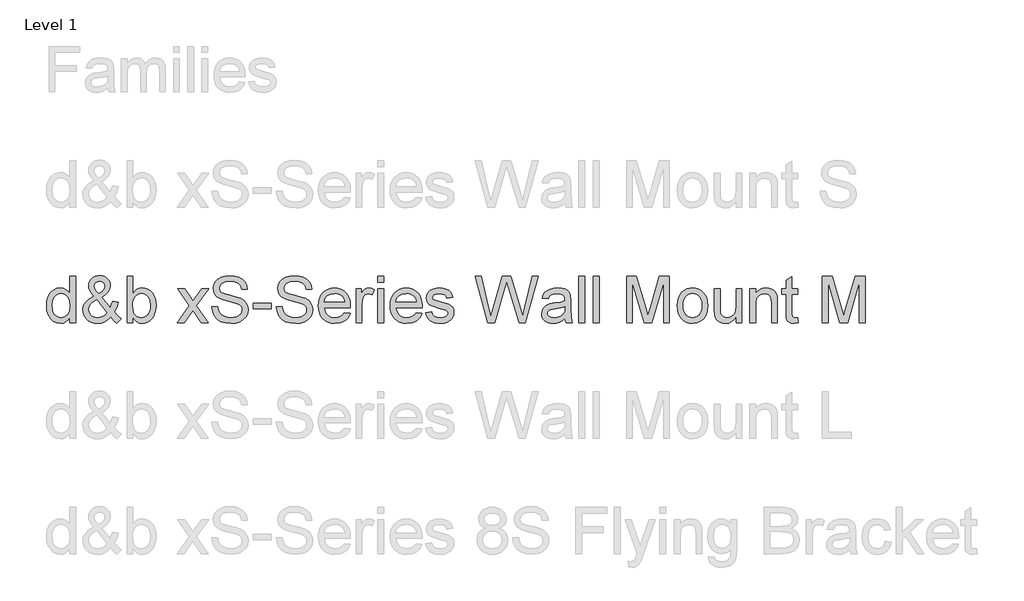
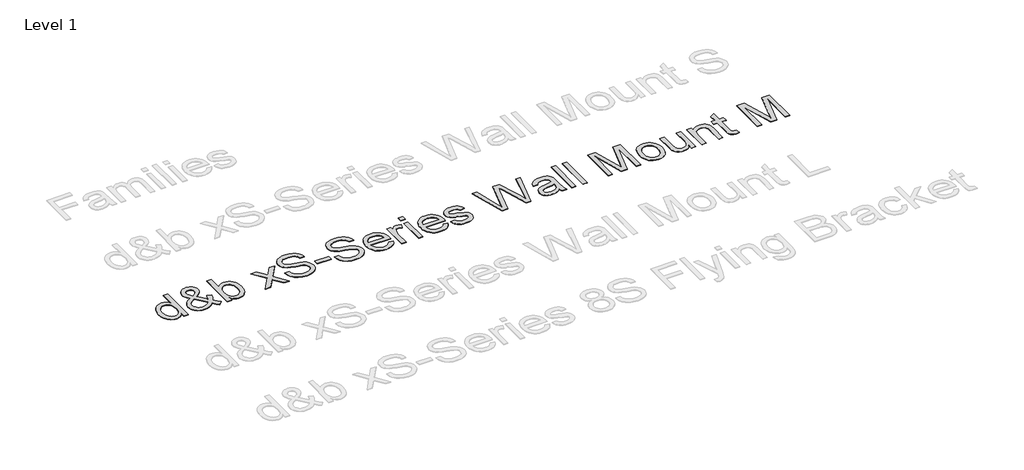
# One storey, part 41 of 55: 1 proxy.
"""IFC4 building model written with IfcOpenShell, lengths in millimetres."""

from ifc_helpers import new_model, si_unit, origin, origin_with_axes, place, context, project, spatial, polyline, outline, extrude, element, save

model = new_model("IFC4")

# Units and contexts
model_context = context("Model", 3, world=origin())
ifc_project = project(units=[si_unit("LENGTHUNIT", "METRE", prefix="MILLI")], contexts=[model_context])

# Site, building, storey
site = spatial("IfcSite", under=ifc_project)
building = spatial("IfcBuilding", under=site)
storey = spatial("IfcBuildingStorey", under=building, Name="Level 1", Elevation=0.0)

# Proxy
placement = place(None, origin())
element("IfcBuildingElementProxy", 1, Name="400mm Arial", ObjectType="400mm Arial", at=placement, inside=storey, context=model_context, shape_type="SweptSolid", body=[
    extrude(outline(polyline([(-20879.8211974, 4351.3054836), (-20879.8211974, 4398.6886846), (-20894.8491769, 4375.2116819), (-20913.0532043, 4358.4423943), (-20934.4332796, 4348.3808217), (-20958.9894028, 4345.0269642), (-20991.4611202, 4349.8830065), (-21021.1859854, 4364.4511335), (-21046.3491139, 4387.7135384), (-21065.1356211, 4418.6524142), (-21076.8342686, 4456.0169621), (-21080.7338177, 4498.5563835), (-21077.1408369, 4540.5685074), (-21066.3618944, 4578.5094038), (-21048.4092531, 4610.2208318), (-21023.2951755, 4633.5445503), (-20992.9203855, 4647.8919481), (-20959.1856065, 4652.674414), (-20934.6110892, 4649.2531115), (-20912.8815261, 4638.9892038), (-20894.4629008, 4623.2561171), (-20879.8211974, 4603.4272776), (-20879.8211974, 4753.1307242), (-20829.5930424, 4753.1307242), (-20829.5930424, 4351.3054836), (-20879.8211974, 4351.3054836)]), holes=[polyline([(-21030.5056627, 4498.7525872), (-21029.089317, 4474.3957335), (-21024.8402799, 4453.3191608), (-21017.7585515, 4435.5228693), (-21007.8441318, 4421.0068589), (-20983.1469871, 4401.6930542), (-20969.2717046, 4396.864603), (-20954.3786151, 4395.2551193), (-20939.415015, 4396.7910266), (-20925.6225058, 4401.3987486), (-20901.5507606, 4419.8296365), (-20892.0440767, 4433.7386416), (-20885.2535882, 4450.8911397), (-20879.8211974, 4494.9266145), (-20885.3516901, 4543.0701049), (-20892.2648059, 4561.6052261), (-20901.9431681, 4576.4492646), (-20913.6448812, 4587.8229496), (-20926.6280499, 4595.9470104), (-20940.8926743, 4600.8214468), (-20956.4387543, 4602.4462589), (-20971.6261493, 4600.8858262), (-20985.5014319, 4596.2045278), (-20998.064602, 4588.4023638), (-21009.3156597, 4577.4793342), (-21018.586286, 4563.1963157), (-21025.2081619, 4545.3141851), (-21030.5056627, 4498.7525872)])]), origin_with_axes(), (0.0, 0.0, 1.0), 5.0),
    extrude(outline(polyline([(-20523.809528, 4400.9450275), (-20549.3405384, 4376.4808748), (-20577.0788409, 4359.00648), (-20607.0734862, 4348.5218431), (-20639.3735254, 4345.0269642), (-20668.6814577, 4347.6144009), (-20694.8010793, 4355.376711), (-20717.7323904, 4368.3138945), (-20737.4753908, 4386.4259514), (-20750.308341, 4403.7961129), (-20759.4747341, 4422.1595558), (-20764.9745699, 4441.5162802), (-20766.8078485, 4461.8662859), (-20760.9094739, 4497.0603301), (-20743.2143499, 4528.6736562), (-20713.796053, 4556.6817387), (-20672.7281596, 4581.0600523), (-20694.6416638, 4609.4114914), (-20707.7995765, 4631.8768186), (-20714.3846642, 4651.0557332), (-20716.5796934, 4669.5479349), (-20714.8506481, 4687.1020374), (-20709.6635119, 4703.4666548), (-20701.018285, 4718.6417871), (-20688.9149674, 4732.6274343), (-20674.1935562, 4744.3444759), (-20657.6940487, 4752.7137912), (-20639.4164449, 4757.7353805), (-20619.3607448, 4759.4092436), (-20600.212487, 4757.8089569), (-20582.8913764, 4753.0080968), (-20567.397413, 4745.0066634), (-20553.7305969, 4733.8046567), (-20542.5715097, 4720.3585698), (-20534.6007332, 4705.6248959), (-20529.8182672, 4689.603635), (-20528.2241119, 4672.2947871), (-20532.9452642, 4644.31123), (-20547.108721, 4618.436863), (-20570.7144823, 4594.6716861), (-20603.7625482, 4573.0156993), (-20531.069066, 4482.4676776), (-20518.6837055, 4508.3420446), (-20509.3885538, 4538.0914353), (-20459.1603987, 4527.2021282), (-20474.6114425, 4480.6773185), (-20494.6732739, 4444.5022557), (-20466.1256311, 4411.1966724), (-20434.0463211, 4383.6790991), (-20471.7174374, 4345.0269642), (-20497.3465498, 4368.47331), (-20523.809528, 4400.9450275)]), holes=[polyline([(-20557.4584678, 4437.1446158), (-20647.1235727, 4549.0788442), (-20681.3733865, 4527.2266537), (-20702.305872, 4506.9931439), (-20713.0112381, 4487.6670765), (-20716.5796934, 4468.5372127), (-20711.6991256, 4444.8456122), (-20697.0574222, 4420.2710949), (-20686.2784798, 4409.3266056), (-20673.4639236, 4401.5091132), (-20658.6137537, 4396.8186177), (-20641.7279702, 4395.2551193), (-20619.0051256, 4398.1736498), (-20595.5710425, 4406.9292412), (-20574.1480476, 4420.3201459), (-20557.4584678, 4437.1446158)]), polyline([(-20629.1709314, 4604.7026019), (-20602.9041569, 4621.3676562), (-20587.8700461, 4635.8499441), (-20580.8067117, 4649.9398245), (-20578.452267, 4665.4276565), (-20581.5547385, 4682.9756277), (-20590.862153, 4696.9674062), (-20604.829406, 4706.1276679), (-20621.9113933, 4709.1810885), (-20639.3612626, 4706.1521934), (-20653.6473468, 4697.0655081), (-20663.1754905, 4683.6132898), (-20666.3515384, 4667.4877957), (-20662.0350563, 4649.0936959), (-20648.9875082, 4628.639457), (-20629.1709314, 4604.7026019)])]), origin_with_axes(), (0.0, 0.0, 1.0), 5.0),
    extrude(outline(polyline([(-20333.590011, 4351.3054836), (-20383.8181661, 4351.3054836), (-20383.8181661, 4753.1307242), (-20333.590011, 4753.1307242), (-20333.590011, 4604.1139907), (-20317.0721094, 4625.3591759), (-20298.4204923, 4640.5343082), (-20277.6351595, 4649.6393876), (-20254.7161112, 4652.674414), (-20228.8417442, 4649.9398245), (-20204.3898543, 4641.736056), (-20182.758393, 4628.5781433), (-20165.3453119, 4610.9811212), (-20151.6968898, 4589.116668), (-20141.3594058, 4563.1564619), (-20134.8478945, 4534.1796234), (-20132.6773907, 4503.265273), (-20134.9245365, 4467.5929822), (-20141.6659741, 4436.2126481), (-20152.9017034, 4409.1242705), (-20168.6317244, 4386.3278495), (-20187.5132678, 4368.2587122), (-20208.2035643, 4355.3521855), (-20230.702614, 4347.6082695), (-20255.0104168, 4345.0269642), (-20278.6836232, 4348.3562962), (-20299.671291, 4358.3442924), (-20317.9734203, 4374.9909527), (-20333.590011, 4398.2962771), (-20333.590011, 4351.3054836)]), holes=[polyline([(-20333.590011, 4500.9108283), (-20330.1564457, 4459.0213318), (-20319.8557498, 4430.6698927), (-20307.6849872, 4415.1759293), (-20293.5399244, 4404.1088126), (-20277.4205617, 4397.4685426), (-20259.3268989, 4395.2551193), (-20244.3050508, 4396.8860628), (-20230.3377977, 4401.7788933), (-20217.4251396, 4409.9336109), (-20205.5670767, 4421.3502155), (-20195.6526569, 4435.9980502), (-20188.5709285, 4453.8464584), (-20184.3218914, 4474.8954399), (-20182.9055458, 4499.1449947), (-20188.3379366, 4545.1057186), (-20195.1284251, 4562.8989445), (-20204.6351089, 4577.2340795), (-20216.0670419, 4588.264408), (-20228.6332778, 4596.1432141), (-20242.3338164, 4600.8704977), (-20257.1686579, 4602.4462589), (-20272.190506, 4600.8153154), (-20286.1577591, 4595.9224849), (-20299.0704171, 4587.7677673), (-20310.9284801, 4576.3511628), (-20320.8428999, 4561.8504808), (-20327.9246283, 4544.443531), (-20332.1736653, 4524.1303135), (-20333.590011, 4500.9108283)])]), origin_with_axes(), (0.0, 0.0, 1.0), 5.0),
    extrude(outline(polyline([(-19950.6003285, 4351.3054836), (-19843.2768878, 4499.7336059), (-19944.3218092, 4646.3958946), (-19884.0872638, 4646.3958946), (-19835.3306367, 4575.6644497), (-19812.4729021, 4542.4079173), (-19792.6563253, 4569.6802359), (-19737.1306695, 4646.3958946), (-19676.6999204, 4646.3958946), (-19782.8461387, 4499.635504), (-19680.623995, 4351.3054836), (-19740.9566422, 4351.3054836), (-19802.5646137, 4440.5781811), (-19813.7482263, 4456.9611926), (-19890.1695795, 4351.3054836), (-19950.6003285, 4351.3054836)])), origin_with_axes(), (0.0, 0.0, 1.0), 5.0),
    extrude(outline(polyline([(-19649.2313981, 4489.43291), (-19599.003243, 4489.43291), (-19593.2397584, 4461.5597175), (-19582.8164352, 4439.155704), (-19566.556051, 4421.3747409), (-19543.2813835, 4407.3706996), (-19514.8318425, 4398.2840144), (-19483.0468381, 4395.2551193), (-19455.063281, 4397.5482504), (-19430.5623402, 4404.4276437), (-19410.7089752, 4415.3169507), (-19396.6681457, 4429.6398231), (-19388.3172244, 4446.0841483), (-19385.533584, 4463.3378138), (-19387.6182486, 4480.150021), (-19393.8722425, 4494.6813598), (-19406.5764341, 4507.0789831), (-19428.0116917, 4517.4900435), (-19501.1466323, 4536.6689582), (-19549.1552327, 4549.360887), (-19579.8733793, 4561.4396792), (-19604.8770922, 4578.3377255), (-19622.5967416, 4598.8164899), (-19633.1549549, 4622.434514), (-19636.6743593, 4648.7503394), (-19632.3210891, 4678.1686363), (-19619.2612782, 4705.6003704), (-19597.8382834, 4728.8505125), (-19568.395461, 4745.7240333), (-19533.054264, 4755.987941), (-19493.9361452, 4759.4092436), (-19451.5561394, 4755.8285255), (-19414.4736342, 4745.0863712), (-19384.013005, 4727.40351), (-19361.4986269, 4703.000671), (-19347.249331, 4673.3984331), (-19341.5839483, 4640.1173753), (-19391.8121033, 4640.1173753), (-19401.0336787, 4670.0874951), (-19409.3968627, 4681.9455581), (-19420.2616443, 4691.7189564), (-19450.3053406, 4704.8155555), (-19491.9741079, 4709.1810885), (-19534.6238939, 4704.8646064), (-19550.9271976, 4699.4690038), (-19563.8827752, 4691.9151602), (-19580.805347, 4672.8588728), (-19586.4462043, 4650.2218674), (-19582.4485532, 4630.9203254), (-19570.4556002, 4615.3957052), (-19542.1041611, 4601.5142912), (-19488.4424407, 4587.3385717), (-19433.0639377, 4573.8740907), (-19399.5621507, 4562.1263923), (-19370.9286687, 4543.9039708), (-19350.9526764, 4521.4141181), (-19339.2172408, 4494.902089), (-19335.3054289, 4464.6131381), (-19339.805852, 4433.6497368), (-19353.3071212, 4404.5257455), (-19375.2574136, 4379.4607189), (-19405.1049061, 4360.6742117), (-19440.9979261, 4348.9387761), (-19481.0848008, 4345.0269642), (-19530.2951491, 4349.2453444), (-19570.7989567, 4361.900485), (-19603.0622077, 4383.041437), (-19627.5508858, 4412.7172513), (-19643.2717098, 4448.8677887), (-19649.2313981, 4489.43291)])), origin_with_axes(), (0.0, 0.0, 1.0), 5.0),
    extrude(outline(polyline([(-19291.3557932, 4470.5973519), (-19291.3557932, 4520.825507), (-19134.3928086, 4520.825507), (-19134.3928086, 4470.5973519), (-19291.3557932, 4470.5973519)])), origin_with_axes(), (0.0, 0.0, 1.0), 5.0),
    extrude(outline(polyline([(-19090.4431729, 4489.43291), (-19040.2150178, 4489.43291), (-19034.4515332, 4461.5597175), (-19024.02821, 4439.155704), (-19007.7678258, 4421.3747409), (-18984.4931583, 4407.3706996), (-18956.0436173, 4398.2840144), (-18924.2586129, 4395.2551193), (-18896.2750558, 4397.5482504), (-18871.774115, 4404.4276437), (-18851.9207499, 4415.3169507), (-18837.8799205, 4429.6398231), (-18829.5289992, 4446.0841483), (-18826.7453587, 4463.3378138), (-18828.8300234, 4480.150021), (-18835.0840173, 4494.6813598), (-18847.7882089, 4507.0789831), (-18869.2234665, 4517.4900435), (-18942.3584071, 4536.6689582), (-18990.3670075, 4549.360887), (-19021.0851541, 4561.4396792), (-19046.088867, 4578.3377255), (-19063.8085164, 4598.8164899), (-19074.3667297, 4622.434514), (-19077.8861341, 4648.7503394), (-19073.5328638, 4678.1686363), (-19060.473053, 4705.6003704), (-19039.0500582, 4728.8505125), (-19009.6072358, 4745.7240333), (-18974.2660388, 4755.987941), (-18935.14792, 4759.4092436), (-18892.7679141, 4755.8285255), (-18855.685409, 4745.0863712), (-18825.2247798, 4727.40351), (-18802.7104017, 4703.000671), (-18788.4611058, 4673.3984331), (-18782.7957231, 4640.1173753), (-18833.0238781, 4640.1173753), (-18842.2454535, 4670.0874951), (-18850.6086375, 4681.9455581), (-18861.4734191, 4691.7189564), (-18891.5171154, 4704.8155555), (-18933.1858827, 4709.1810885), (-18975.8356687, 4704.8646064), (-18992.1389724, 4699.4690038), (-19005.09455, 4691.9151602), (-19022.0171218, 4672.8588728), (-19027.657979, 4650.2218674), (-19023.660328, 4630.9203254), (-19011.667375, 4615.3957052), (-18983.3159359, 4601.5142912), (-18929.6542155, 4587.3385717), (-18874.2757125, 4573.8740907), (-18840.7739255, 4562.1263923), (-18812.1404435, 4543.9039708), (-18792.1644512, 4521.4141181), (-18780.4290156, 4494.902089), (-18776.5172037, 4464.6131381), (-18781.0176267, 4433.6497368), (-18794.518896, 4404.5257455), (-18816.4691883, 4379.4607189), (-18846.3166809, 4360.6742117), (-18882.2097009, 4348.9387761), (-18922.2965756, 4345.0269642), (-18971.5069238, 4349.2453444), (-19012.0107315, 4361.900485), (-19044.2739825, 4383.041437), (-19068.7626606, 4412.7172513), (-19084.4834846, 4448.8677887), (-19090.4431729, 4489.43291)])), origin_with_axes(), (0.0, 0.0, 1.0), 5.0),
    extrude(outline(polyline([(-18500.850962, 4439.204755), (-18451.6038255, 4432.9262356), (-18459.1546035, 4413.2016293), (-18469.3480004, 4395.819205), (-18482.1840164, 4380.7789628), (-18497.6626513, 4368.0809026), (-18515.6244897, 4357.9948045), (-18535.9101161, 4350.7904488), (-18583.4527326, 4345.0269642), (-18614.618469, 4347.5132333), (-18642.3874282, 4354.9720408), (-18666.7596104, 4367.4033865), (-18687.7350155, 4384.8072706), (-18704.602405, 4406.699315), (-18716.6505403, 4432.5951418), (-18723.8794215, 4462.4947509), (-18726.2890486, 4496.3981425), (-18723.8548961, 4531.4511652), (-18716.5524385, 4562.3471215), (-18704.3816758, 4589.0860112), (-18687.342608, 4611.6678343), (-18666.4223852, 4629.6082129), (-18642.6081574, 4642.4227691), (-18615.8999246, 4650.1115028), (-18586.2976867, 4652.674414), (-18557.6488763, 4650.1176342), (-18531.7407868, 4642.4472946), (-18508.5734182, 4629.6633952), (-18488.1467704, 4611.7659362), (-18471.472519, 4589.233164), (-18459.5623394, 4562.5433252), (-18452.4162316, 4531.6964199), (-18450.0341957, 4496.6924481), (-18450.3285013, 4483.1543906), (-18676.0608935, 4483.1543906), (-18673.1515601, 4463.1109533), (-18667.3666157, 4445.5568507), (-18658.7060604, 4430.492083), (-18647.1698942, 4417.9166502), (-18633.3957791, 4408.0022304), (-18618.0213774, 4400.920502), (-18582.4717139, 4395.2551193), (-18555.7389556, 4397.8793442), (-18533.2245775, 4405.7520189), (-18514.9285796, 4419.3636527), (-18500.850962, 4439.204755)]), holes=[polyline([(-18676.0608935, 4533.3825457), (-18500.2623508, 4533.3825457), (-18507.0559049, 4559.9191003), (-18520.3732332, 4578.9018113), (-18534.0707061, 4589.2025071), (-18549.65664, 4596.560147), (-18567.1310348, 4600.974731), (-18586.4938904, 4602.4462589), (-18620.3512967, 4597.7496321), (-18648.3471166, 4583.6597517), (-18667.8080741, 4561.6971966), (-18676.0608935, 4533.3825457)])]), origin_with_axes(), (0.0, 0.0, 1.0), 5.0),
    extrude(outline(polyline([(-18399.8060406, 4351.3054836), (-18399.8060406, 4646.3958946), (-18355.8564049, 4646.3958946), (-18355.8564049, 4602.7405645), (-18339.6205462, 4628.0508458), (-18324.6600117, 4642.9623293), (-18309.6504263, 4650.2463929), (-18293.2674148, 4652.674414), (-18268.2514391, 4648.7993903), (-18242.843056, 4637.1743193), (-18259.618475, 4592.1455631), (-18277.2768108, 4599.871085), (-18294.9351465, 4602.4462589), (-18309.9324692, 4599.9691868), (-18323.3356365, 4592.5379705), (-18334.1636299, 4580.7166958), (-18341.4354307, 4565.0694482), (-18347.5422718, 4537.0123147), (-18349.5778855, 4506.4045327), (-18349.5778855, 4351.3054836), (-18399.8060406, 4351.3054836)])), origin_with_axes(), (0.0, 0.0, 1.0), 5.0),
    extrude(outline(polyline([(-18211.4504591, 4702.9025691), (-18211.4504591, 4753.1307242), (-18161.222304, 4753.1307242), (-18161.222304, 4702.9025691), (-18211.4504591, 4702.9025691)])), origin_with_axes(), (0.0, 0.0, 1.0), 5.0),
    extrude(outline(polyline([(-18211.4504591, 4351.3054836), (-18211.4504591, 4646.3958946), (-18161.222304, 4646.3958946), (-18161.222304, 4351.3054836), (-18211.4504591, 4351.3054836)])), origin_with_axes(), (0.0, 0.0, 1.0), 5.0),
    extrude(outline(polyline([(-17879.2775429, 4439.204755), (-17830.0304065, 4432.9262356), (-17837.5811844, 4413.2016293), (-17847.7745814, 4395.819205), (-17860.6105973, 4380.7789628), (-17876.0892323, 4368.0809026), (-17894.0510707, 4357.9948045), (-17914.336697, 4350.7904488), (-17961.8793136, 4345.0269642), (-17993.0450499, 4347.5132333), (-18020.8140092, 4354.9720408), (-18045.1861914, 4367.4033865), (-18066.1615965, 4384.8072706), (-18083.0289859, 4406.699315), (-18095.0771213, 4432.5951418), (-18102.3060025, 4462.4947509), (-18104.7156295, 4496.3981425), (-18102.281477, 4531.4511652), (-18094.9790194, 4562.3471215), (-18082.8082567, 4589.0860112), (-18065.769189, 4611.6678343), (-18044.8489662, 4629.6082129), (-18021.0347384, 4642.4227691), (-17994.3265055, 4650.1115028), (-17964.7242676, 4652.674414), (-17936.0754573, 4650.1176342), (-17910.1673678, 4642.4472946), (-17886.9999991, 4629.6633952), (-17866.5733513, 4611.7659362), (-17849.8990999, 4589.233164), (-17837.9889203, 4562.5433252), (-17830.8428126, 4531.6964199), (-17828.4607766, 4496.6924481), (-17828.7550822, 4483.1543906), (-18054.4874745, 4483.1543906), (-18051.578141, 4463.1109533), (-18045.7931967, 4445.5568507), (-18037.1326413, 4430.492083), (-18025.5964751, 4417.9166502), (-18011.8223601, 4408.0022304), (-17996.4479584, 4400.920502), (-17960.8982949, 4395.2551193), (-17934.1655366, 4397.8793442), (-17911.6511585, 4405.7520189), (-17893.3551606, 4419.3636527), (-17879.2775429, 4439.204755)]), holes=[polyline([(-18054.4874745, 4533.3825457), (-17878.6889317, 4533.3825457), (-17885.4824859, 4559.9191003), (-17898.7998141, 4578.9018113), (-17912.4972871, 4589.2025071), (-17928.0832209, 4596.560147), (-17945.5576157, 4600.974731), (-17964.9204714, 4602.4462589), (-17998.7778777, 4597.7496321), (-18026.7736975, 4583.6597517), (-18046.234655, 4561.6971966), (-18054.4874745, 4533.3825457)])]), origin_with_axes(), (0.0, 0.0, 1.0), 5.0),
    extrude(outline(polyline([(-17797.0681797, 4439.204755), (-17746.8400246, 4445.4832743), (-17738.918299, 4423.9989658), (-17723.5898825, 4408.2045655), (-17700.7566734, 4398.4924808), (-17670.3205696, 4395.2551193), (-17640.2523479, 4398.2227007), (-17619.1113959, 4407.125445), (-17606.6034081, 4420.0258403), (-17602.4340788, 4434.9863747), (-17606.6279335, 4447.7886682), (-17619.2094978, 4457.5498038), (-17670.9091808, 4471.8726761), (-17746.545719, 4496.4471934), (-17765.6878455, 4508.7957657), (-17779.5569967, 4525.141989), (-17787.9814944, 4544.443531), (-17790.7896603, 4565.6580594), (-17788.5333174, 4585.119017), (-17781.7642887, 4603.0839211), (-17771.0957109, 4618.8415332), (-17757.1407205, 4631.6806148), (-17725.2085633, 4646.5430474), (-17704.3251287, 4651.1415724), (-17681.9946916, 4652.674414), (-17649.302245, 4650.2096047), (-17620.8772295, 4642.8151766), (-17598.0194949, 4631.214631), (-17582.0288908, 4616.1314692), (-17571.4338893, 4596.4497824), (-17564.7629625, 4571.053662), (-17614.9911176, 4564.7751426), (-17621.3309506, 4580.5818057), (-17633.8757267, 4592.4889196), (-17652.748073, 4599.9569241), (-17678.070617, 4602.4462589), (-17706.9125654, 4600.0672887), (-17726.140531, 4592.930378), (-17736.9562617, 4582.6296821), (-17740.5615053, 4570.7593564), (-17734.5772915, 4556.1421785), (-17715.8398352, 4545.0566677), (-17672.5769125, 4534.3635644), (-17598.8533607, 4510.7210148), (-17579.3801404, 4499.4147748), (-17564.6158097, 4483.9392056), (-17555.3083952, 4464.2452561), (-17552.2059237, 4440.2838755), (-17555.8479555, 4415.5131545), (-17566.7740507, 4392.2139614), (-17584.5672766, 4372.2134436), (-17608.8107, 4357.3387483), (-17638.0941069, 4348.1049102), (-17671.0072827, 4345.0269642), (-17698.040478, 4346.5107549), (-17721.6523707, 4350.962127), (-17741.8429609, 4358.3810806), (-17758.6122485, 4368.7676156), (-17772.3097214, 4382.0726811), (-17783.2848676, 4398.2472262), (-17791.5376871, 4417.2912508), (-17797.0681797, 4439.204755)])), origin_with_axes(), (0.0, 0.0, 1.0), 5.0),
    extrude(outline(polyline([(-17260.5490779, 4351.3054836), (-17370.1288616, 4753.1307242), (-17318.3310767, 4753.1307242), (-17254.7610679, 4489.0405026), (-17235.1406948, 4407.5178524), (-17214.1468956, 4479.6227235), (-17134.4881809, 4753.1307242), (-17059.8326614, 4753.1307242), (-17001.9525608, 4554.8668542), (-16977.1573143, 4481.2904552), (-16958.8858419, 4407.5178524), (-16939.85408, 4486.6860578), (-16875.7935619, 4753.1307242), (-16823.8976751, 4753.1307242), (-16933.3793569, 4351.3054836), (-16987.1391791, 4351.3054836), (-17083.5733128, 4661.3073782), (-17097.0132684, 4704.5703008), (-17112.1209556, 4652.4782103), (-17199.9221251, 4351.3054836), (-17260.5490779, 4351.3054836)])), origin_with_axes(), (0.0, 0.0, 1.0), 5.0),
    extrude(outline(polyline([(-16591.5924579, 4388.9765999), (-16615.5906267, 4368.3997336), (-16640.3000341, 4354.9352526), (-16666.2847657, 4347.5040363), (-16694.1089072, 4345.0269642), (-16716.4730669, 4346.5168863), (-16736.0842429, 4350.9866525), (-16752.9424353, 4358.4362629), (-16767.0476442, 4368.8657175), (-16778.1852716, 4381.6128286), (-16786.1407197, 4396.0154087), (-16790.9139886, 4412.0734578), (-16792.5050782, 4429.7869759), (-16790.1015825, 4450.6090968), (-16782.8910954, 4469.5182314), (-16771.7687964, 4485.7050391), (-16757.6298651, 4498.3601798), (-16741.0138616, 4507.9251117), (-16722.4603463, 4514.8412932), (-16679.00122, 4522.3951368), (-16627.6448934, 4530.3413879), (-16591.8867635, 4539.6610651), (-16591.5924579, 4550.8446778), (-16595.0505487, 4573.260954), (-16605.4248209, 4587.9271829), (-16628.6259121, 4598.8164899), (-16660.9504767, 4602.4462589), (-16690.8715457, 4600.0305005), (-16711.767243, 4592.7832252), (-16726.016539, 4579.3800578), (-16735.9984038, 4558.4966233), (-16786.2265588, 4564.7751426), (-16777.5077555, 4592.2436649), (-16764.4969957, 4613.8260753), (-16745.9802686, 4630.3317142), (-16720.7435637, 4642.5699219), (-16689.8782643, 4650.148291), (-16654.4757536, 4652.674414), (-16620.5202455, 4650.4425966), (-16593.6035462, 4643.7471443), (-16573.3087228, 4633.6794403), (-16559.2188423, 4621.330868), (-16549.8746397, 4606.0637652), (-16543.8168495, 4587.2404698), (-16541.3643028, 4543.2908341), (-16541.3643028, 4480.7999459), (-16538.8136543, 4393.5383366), (-16528.8072641, 4351.3054836), (-16579.0354191, 4351.3054836), (-16587.0797721, 4368.7676156), (-16591.5924579, 4388.9765999)]), holes=[polyline([(-16591.5924579, 4489.43291), (-16625.3394996, 4481.069726), (-16672.6245987, 4474.0309172), (-16715.8384704, 4465.8884623), (-16727.0833967, 4460.3211815), (-16735.4097926, 4452.6447105), (-16740.5601405, 4443.4476606), (-16742.2769231, 4433.318643), (-16738.5367895, 4418.382634), (-16727.3163887, 4406.1444263), (-16708.8609752, 4397.977446), (-16683.4158039, 4395.2551193), (-16656.4377909, 4398.2594889), (-16632.5990376, 4407.2725978), (-16613.2729702, 4420.5531378), (-16599.8330146, 4436.3598009), (-16593.8733263, 4452.6447105), (-16591.8867635, 4475.2081395), (-16591.5924579, 4489.43291)])]), origin_with_axes(), (0.0, 0.0, 1.0), 5.0),
    extrude(outline(polyline([(-16472.3005896, 4351.3054836), (-16472.3005896, 4753.1307242), (-16422.0724345, 4753.1307242), (-16422.0724345, 4351.3054836), (-16472.3005896, 4351.3054836)])), origin_with_axes(), (0.0, 0.0, 1.0), 5.0),
    extrude(outline(polyline([(-16346.7302019, 4351.3054836), (-16346.7302019, 4753.1307242), (-16296.5020469, 4753.1307242), (-16296.5020469, 4351.3054836), (-16346.7302019, 4351.3054836)])), origin_with_axes(), (0.0, 0.0, 1.0), 5.0),
    extrude(outline(polyline([(-16057.9183102, 4351.3054836), (-16057.9183102, 4753.1307242), (-15971.7848724, 4753.1307242), (-15889.3793055, 4469.9106388), (-15872.7019884, 4410.755214), (-15854.749347, 4474.8157321), (-15773.91341, 4753.1307242), (-15687.4856666, 4753.1307242), (-15687.4856666, 4351.3054836), (-15737.7138216, 4351.3054836), (-15737.7138216, 4702.9025691), (-15838.6606411, 4351.3054836), (-15906.6452338, 4351.3054836), (-16007.6901552, 4702.9025691), (-16007.6901552, 4351.3054836), (-16057.9183102, 4351.3054836)])), origin_with_axes(), (0.0, 0.0, 1.0), 5.0),
    extrude(outline(polyline([(-15618.4219533, 4498.8506891), (-15615.7057579, 4537.067497), (-15607.5571718, 4569.999067), (-15593.9761948, 4597.6453989), (-15574.962827, 4620.0064928), (-15555.8207005, 4634.2987084), (-15534.6920112, 4644.5074337), (-15511.5767592, 4650.6326689), (-15486.4749444, 4652.674414), (-15458.7642331, 4650.1881449), (-15433.7084036, 4642.7293374), (-15411.3074557, 4630.2979917), (-15391.5613897, 4612.8941076), (-15375.4450926, 4591.1062964), (-15363.9334518, 4565.5231694), (-15357.0264674, 4536.1447264), (-15354.7241392, 4502.9709675), (-15358.7953666, 4452.2277776), (-15371.0090489, 4413.6001681), (-15391.0095667, 4384.6723805), (-15418.4413008, 4363.0286565), (-15451.0233828, 4349.5273873), (-15486.4749444, 4345.0269642), (-15514.5903259, 4347.5040363), (-15539.8791474, 4354.9352526), (-15562.3414089, 4367.3206131), (-15581.9771104, 4384.6601178), (-15597.9217292, 4406.6594611), (-15609.3107426, 4433.0243374), (-15616.1441507, 4463.7547468), (-15618.4219533, 4498.8506891)]), holes=[polyline([(-15568.1937983, 4498.948791), (-15566.7406644, 4474.5858058), (-15562.3812627, 4453.4908391), (-15555.1155933, 4435.6638907), (-15544.9436562, 4421.1049608), (-15532.5705584, 4409.7956551), (-15518.7014072, 4401.7175796), (-15503.3362025, 4396.8707344), (-15486.4749444, 4395.2551193), (-15469.6995254, 4396.8799314), (-15454.3956344, 4401.7543678), (-15440.5632714, 4409.8784286), (-15428.2024364, 4421.2521136), (-15418.0304992, 4435.9551307), (-15410.7648298, 4454.0671876), (-15406.4054282, 4475.5882843), (-15404.9522943, 4500.5184208), (-15406.4146252, 4524.1088538), (-15410.801618, 4544.6519975), (-15418.1132727, 4562.1478521), (-15428.3495892, 4576.5964174), (-15440.7564095, 4587.9057231), (-15454.5795754, 4595.9837986), (-15469.8190871, 4600.8306439), (-15486.4749444, 4602.4462589), (-15503.3362025, 4600.8367752), (-15518.7014072, 4596.008324), (-15532.5705584, 4587.9609054), (-15544.9436562, 4576.6945193), (-15555.1155933, 4562.1785089), (-15562.3812627, 4544.3822174), (-15566.7406644, 4523.3056447), (-15568.1937983, 4498.948791)])]), origin_with_axes(), (0.0, 0.0, 1.0), 5.0),
    extrude(outline(polyline([(-15109.8618832, 4351.3054836), (-15109.8618832, 4402.024148), (-15128.0352538, 4377.0878801), (-15149.2007312, 4359.2762601), (-15173.3583156, 4348.5892882), (-15200.5080068, 4345.0269642), (-15224.9721595, 4347.5285618), (-15247.744055, 4355.0333545), (-15266.8493933, 4366.315069), (-15280.3138743, 4380.147432), (-15289.3760341, 4396.9473764), (-15295.2744088, 4417.1318352), (-15298.2174647, 4463.8283232), (-15298.2174647, 4646.3958946), (-15247.9893097, 4646.3958946), (-15247.9893097, 4487.4708727), (-15244.9481518, 4436.261699), (-15237.6273001, 4419.1797117), (-15225.0825241, 4406.1934773), (-15208.1476896, 4397.9897088), (-15187.6566625, 4395.2551193), (-15165.9884129, 4398.0510224), (-15145.718115, 4406.4387319), (-15129.0040097, 4419.6456955), (-15118.004338, 4436.8993611), (-15111.8974969, 4460.5296479), (-15109.8618832, 4492.8664753), (-15109.8618832, 4646.3958946), (-15059.6337281, 4646.3958946), (-15059.6337281, 4351.3054836), (-15109.8618832, 4351.3054836)])), origin_with_axes(), (0.0, 0.0, 1.0), 5.0),
    extrude(outline(polyline([(-14990.5700149, 4351.3054836), (-14990.5700149, 4646.3958946), (-14940.3418598, 4646.3958946), (-14940.3418598, 4605.1931112), (-14922.8919905, 4625.9661812), (-14901.9349795, 4640.8040883), (-14877.4708269, 4649.7068326), (-14849.4995325, 4652.674414), (-14824.7410742, 4650.2831811), (-14802.0672806, 4643.1094821), (-14783.158146, 4632.0484968), (-14769.693665, 4617.9954046), (-14760.5579288, 4600.9869937), (-14754.6350287, 4581.0600523), (-14751.9862783, 4532.4996289), (-14751.9862783, 4351.3054836), (-14802.2144334, 4351.3054836), (-14802.2144334, 4525.7306002), (-14803.6614359, 4551.7030691), (-14808.0024434, 4570.1707452), (-14816.0100082, 4583.4022343), (-14828.4566824, 4593.666142), (-14844.4104982, 4600.2512297), (-14862.939488, 4602.4462589), (-14892.3577849, 4597.5166402), (-14917.4350743, 4582.727784), (-14927.456793, 4570.6551232), (-14934.6151634, 4554.1556157), (-14938.9101857, 4533.2292616), (-14940.3418598, 4507.8760607), (-14940.3418598, 4351.3054836), (-14990.5700149, 4351.3054836)])), origin_with_axes(), (0.0, 0.0, 1.0), 5.0),
    extrude(outline(polyline([(-14576.1877355, 4393.1949801), (-14569.9092162, 4349.8339556), (-14607.4822306, 4345.0269642), (-14631.590764, 4347.1116288), (-14649.5679308, 4353.3656227), (-14662.2721224, 4363.004131), (-14670.56173, 4375.2423387), (-14675.1234668, 4396.2606634), (-14676.6440457, 4432.2395225), (-14676.6440457, 4596.1677396), (-14714.315162, 4596.1677396), (-14714.315162, 4646.3958946), (-14676.6440457, 4646.3958946), (-14676.6440457, 4718.1083582), (-14626.4158906, 4747.6370197), (-14626.4158906, 4646.3958946), (-14576.1877355, 4646.3958946), (-14576.1877355, 4596.1677396), (-14626.4158906, 4596.1677396), (-14626.4158906, 4433.7110505), (-14623.7671403, 4407.812158), (-14615.183227, 4398.6396336), (-14598.0644515, 4395.2551193), (-14576.1877355, 4393.1949801)])), origin_with_axes(), (0.0, 0.0, 1.0), 5.0),
    extrude(outline(polyline([(-14362.7180765, 4351.3054836), (-14362.7180765, 4753.1307242), (-14276.5846387, 4753.1307242), (-14194.1790717, 4469.9106388), (-14177.5017546, 4410.755214), (-14159.5491133, 4474.8157321), (-14078.7131762, 4753.1307242), (-13992.2854328, 4753.1307242), (-13992.2854328, 4351.3054836), (-14042.5135879, 4351.3054836), (-14042.5135879, 4702.9025691), (-14143.4604073, 4351.3054836), (-14211.4450001, 4351.3054836), (-14312.4899214, 4702.9025691), (-14312.4899214, 4351.3054836), (-14362.7180765, 4351.3054836)])), origin_with_axes(), (0.0, 0.0, 1.0), 5.0),
])

save(model, "model.ifc")
